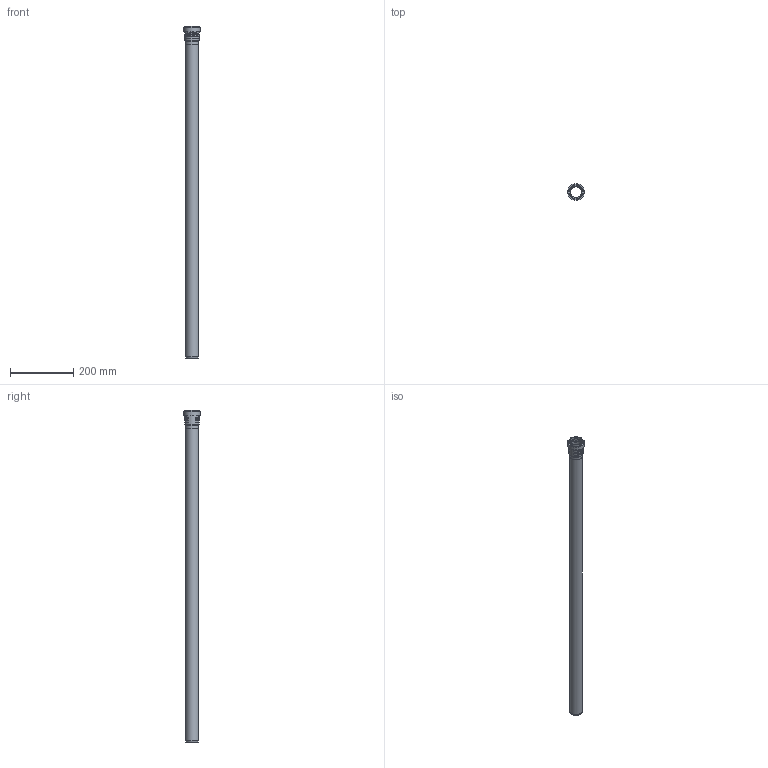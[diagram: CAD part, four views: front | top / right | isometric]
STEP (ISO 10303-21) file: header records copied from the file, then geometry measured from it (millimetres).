
FILE_DESCRIPTION(/* description */ (''),/* implementation_level */ '2;1');
FILE_NAME(/* name */ 'Z:\Geberit\Export\NewStep\390104.stp',/* time_stamp */ '2014-04-02T08:08:38+02:00',/* author */ ('ML'),/* organization */ (''),/* preprocessor_version */ 'ST-DEVELOPER v15.2',/* originating_system */ 'Autodesk Inventor 2014',/* authorisation */ '');
FILE_SCHEMA (('AUTOMOTIVE_DESIGN { 1 0 10303 214 3 1 1 }'));
Length unit declared in the file: millimetre
Products named in the file (3): 861413; 861581ohne; 390104
Bounding box: 53.5 x 53.5 x 1047.3 mm (x, y, z)
Volume: 258297.1 mm3; surface area: 259569.2 mm2
Topology: 2 solids, 2 shells, 47 faces, 104 edges, 71 vertices
Faces by surface type: torus 24, cylinder 11, plane 10, cone 2
Full cylindrical faces by diameter (mm): 36.15 x2, 40.15 x2, 40.8 x2, 42.8 x1, 44.8 x2, 49.5 x1, 53.5 x1
Entity records: 2003 total; most frequent: CARTESIAN_POINT 962, DIRECTION 182, ORIENTED_EDGE 174, AXIS2_PLACEMENT_3D 91, EDGE_CURVE 87, EDGE_LOOP 78, VERTEX_POINT 71, STYLED_ITEM 49
